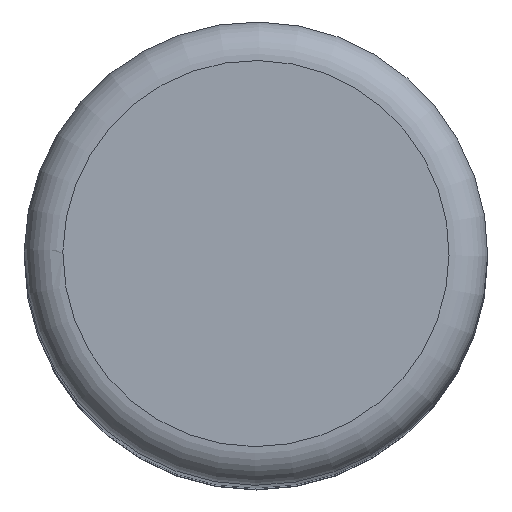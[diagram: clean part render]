
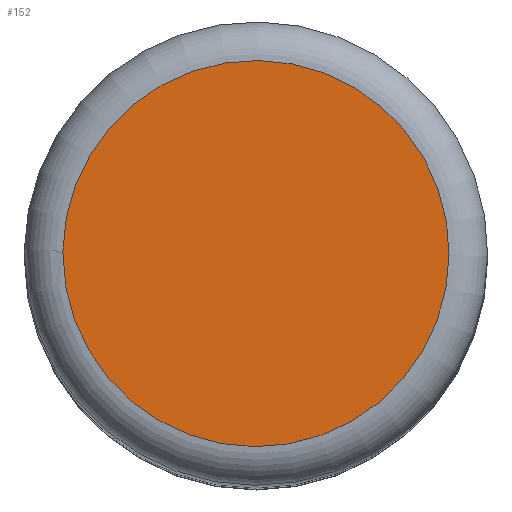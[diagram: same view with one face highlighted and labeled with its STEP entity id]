
A CAD part, top view. The second image highlights one B-rep face of the part: STEP entity #152.
In plain terms, the highlighted planar face has unit normal (0, 0, 1).
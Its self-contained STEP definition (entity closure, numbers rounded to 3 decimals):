
#17=PLANE('',#188);
#25=FACE_OUTER_BOUND('',#35,.T.);
#35=EDGE_LOOP('',(#110,#111));
#57=CIRCLE('',#185,5.);
#58=CIRCLE('',#186,5.);
#71=VERTEX_POINT('',#268);
#72=VERTEX_POINT('',#269);
#85=EDGE_CURVE('',#71,#72,#57,.T.);
#86=EDGE_CURVE('',#72,#71,#58,.T.);
#110=ORIENTED_EDGE('',*,*,#85,.T.);
#111=ORIENTED_EDGE('',*,*,#86,.T.);
#152=ADVANCED_FACE('',(#25),#17,.T.);
#185=AXIS2_PLACEMENT_3D('',#270,#217,#218);
#186=AXIS2_PLACEMENT_3D('',#271,#219,#220);
#188=AXIS2_PLACEMENT_3D('',#273,#223,#224);
#217=DIRECTION('center_axis',(0.,0.,1.));
#218=DIRECTION('ref_axis',(1.,0.,0.));
#219=DIRECTION('center_axis',(0.,0.,1.));
#220=DIRECTION('ref_axis',(1.,0.,0.));
#223=DIRECTION('center_axis',(0.,0.,1.));
#224=DIRECTION('ref_axis',(1.,0.,0.));
#268=CARTESIAN_POINT('',(-5.,0.,0.));
#269=CARTESIAN_POINT('',(-4.999,0.092,0.));
#270=CARTESIAN_POINT('Origin',(0.,0.,0.));
#271=CARTESIAN_POINT('Origin',(0.,0.,0.));
#273=CARTESIAN_POINT('Origin',(0.,0.,0.));
